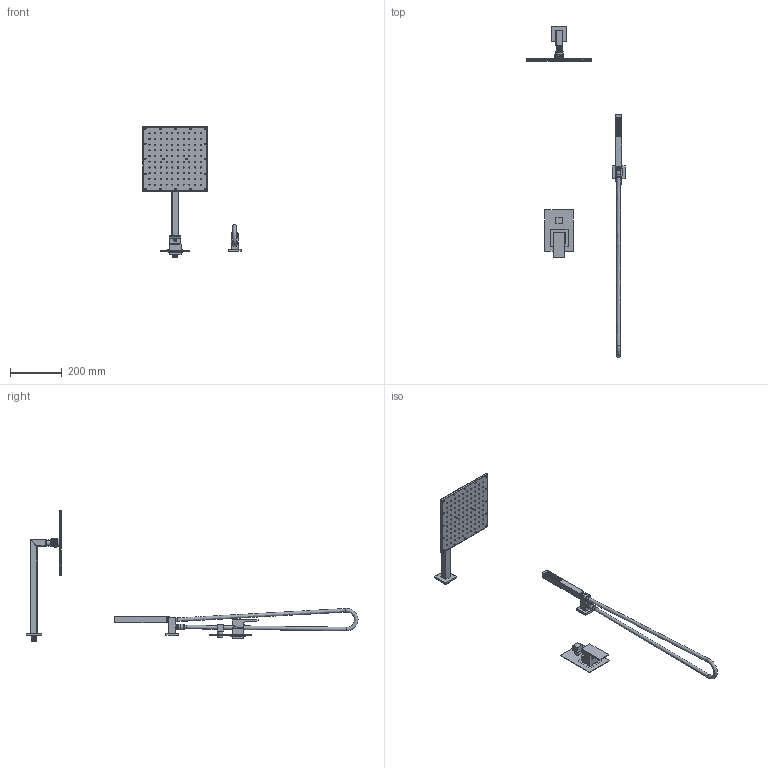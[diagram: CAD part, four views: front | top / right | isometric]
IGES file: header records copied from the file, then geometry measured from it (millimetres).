
Global section: file name: 5842eb7f-ed58-48da-a089-d3d8aa087a4f; native system: unknown; preprocessor: unknown; author: unknown; organization: unknown; date: 20191209.150937; units: millimetre
Bounding box: 380.3 x 1282.41 x 505.5 mm (x, y, z)
Volume: 897984 mm3; surface area: 690648.5 mm2
Topology: 69 solids, 69 shells, 3712 faces, 10182 edges, 5355 vertices
Faces by surface type: bspline 3712
